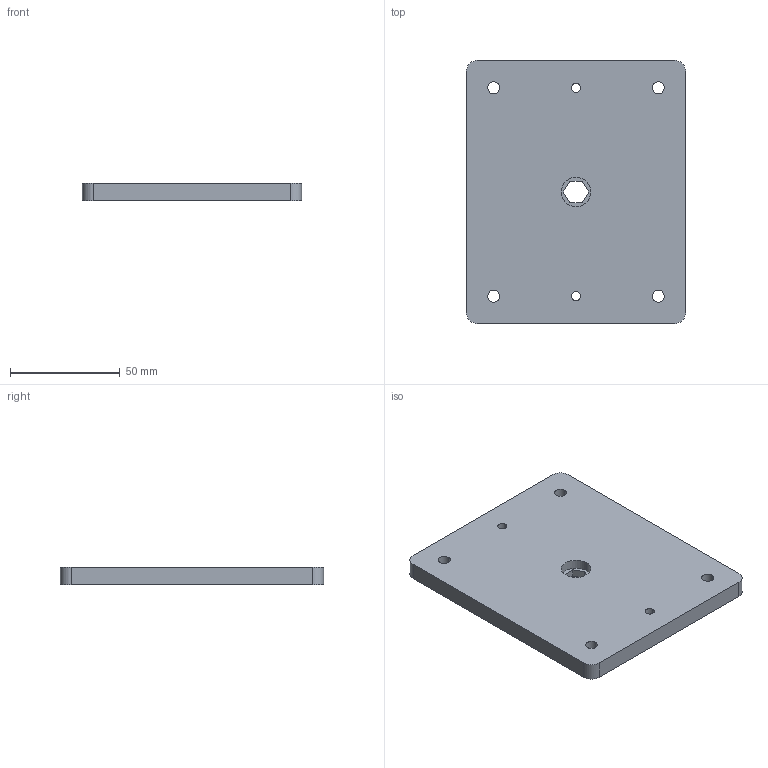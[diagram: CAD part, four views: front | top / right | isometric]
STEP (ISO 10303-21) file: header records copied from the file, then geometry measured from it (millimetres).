
FILE_DESCRIPTION(('CATIA V5 STEP Exchange'),'2;1');
FILE_NAME('D:\姚明阳\AGZ015\AGZ015.01_V1.stp','2022-02-08T01:38:58+00:00',('none'),('none'),'CATIA Version 5 Release 21 GA (IN-10)','CATIA V5 STEP AP214','none');
FILE_SCHEMA(('AUTOMOTIVE_DESIGN { 1 0 10303 214 1 1 1 1 }'));
Length unit declared in the file: millimetre
Products named in the file (1): AGZ015.01_V1
Bounding box: 100 x 120 x 8 mm (x, y, z)
Volume: 93899.1 mm3; surface area: 28065.8 mm2
Topology: 1 solids, 1 shells, 31 faces, 84 edges, 56 vertices
Faces by surface type: cylinder 18, plane 13
Entity records: 973 total; most frequent: ORIENTED_EDGE 168, CARTESIAN_POINT 165, DIRECTION 132, EDGE_CURVE 84, AXIS2_PLACEMENT_3D 61, VERTEX_POINT 56, VECTOR 48, LINE 48
